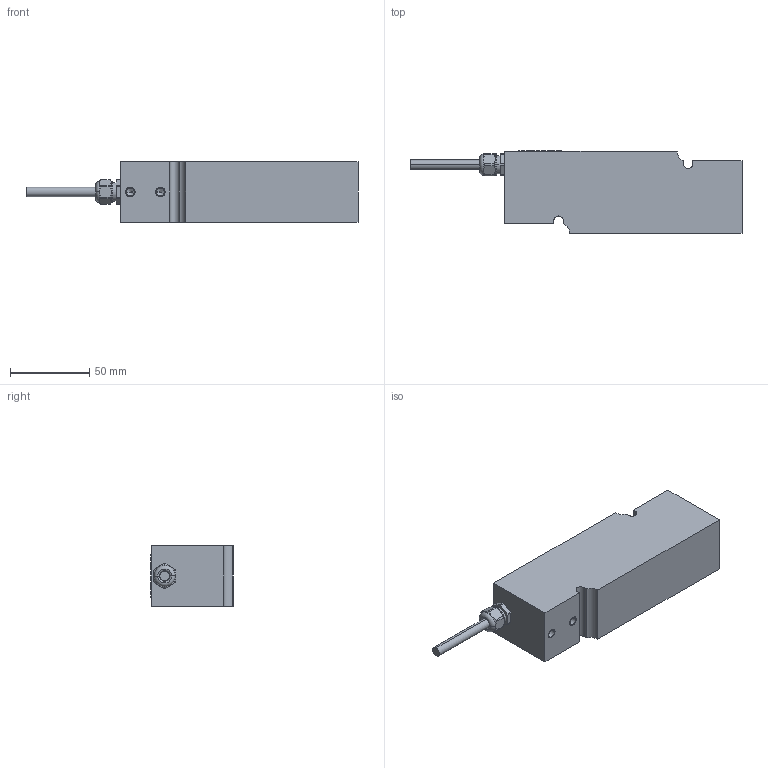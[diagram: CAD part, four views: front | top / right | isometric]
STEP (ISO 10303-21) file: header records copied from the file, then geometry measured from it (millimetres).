
FILE_DESCRIPTION((''),'2;1');
FILE_NAME('D000711378_ASM','2022-04-19T17:14:52',('wang-379'),(''),'CREO PARAMETRIC BY PTC INC, 2018260','CREO PARAMETRIC BY PTC INC, 2018260','');
FILE_SCHEMA(('CONFIG_CONTROL_DESIGN'));
Length unit declared in the file: millimetre
Products named in the file (4): D000519774; D000498808; ME-42111360; D000711378_ASM
Assembly tree (3 placements, depth 2):
  D000711378_ASM
    D000519774
    D000498808
    ME-42111360
Bounding box: 210 x 52.4 x 38 mm (x, y, z)
Volume: 273313.6 mm3; surface area: 37453.6 mm2
Topology: 3 solids, 8 shells, 133 faces, 330 edges, 210 vertices
Faces by surface type: plane 55, cylinder 49, cone 25, torus 4
Entity records: 4188 total; most frequent: CARTESIAN_POINT 895, DIRECTION 710, ORIENTED_EDGE 624, EDGE_CURVE 322, AXIS2_PLACEMENT_3D 277, VERTEX_POINT 210, VECTOR 156, LINE 156
